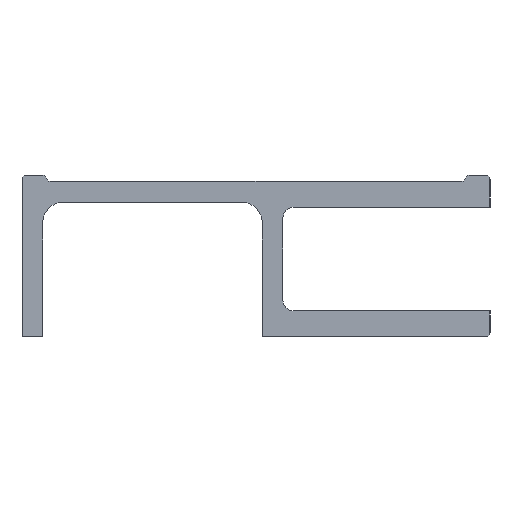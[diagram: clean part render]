
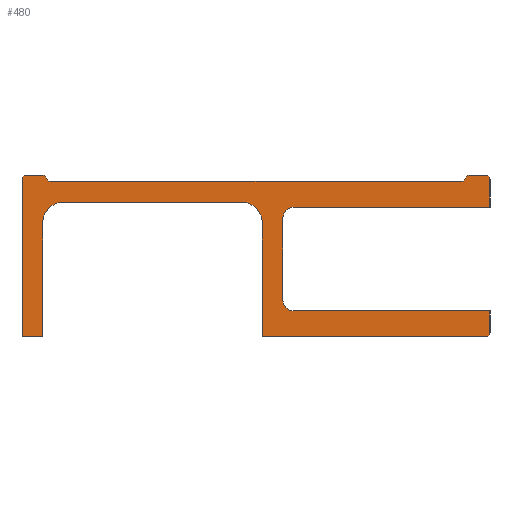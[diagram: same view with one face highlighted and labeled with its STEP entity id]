
A CAD part, left-side view. The second image highlights one B-rep face of the part: STEP entity #480.
In plain terms, the highlighted planar face has unit normal (-1, 0, 0).
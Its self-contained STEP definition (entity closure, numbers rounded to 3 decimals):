
#1=DIRECTION('',(0.,0.,-1.));
#2=VECTOR('',#1,4.);
#3=CARTESIAN_POINT('',(0.,-6.3,5.75));
#4=LINE('',#3,#2);
#5=DIRECTION('',(0.,-1.,0.));
#6=VECTOR('',#5,9.5);
#7=CARTESIAN_POINT('',(0.,-6.8,1.25));
#8=LINE('',#7,#6);
#9=DIRECTION('',(0.,0.,-1.));
#10=VECTOR('',#9,1.05);
#11=CARTESIAN_POINT('',(0.,-16.3,1.25));
#12=LINE('',#11,#10);
#13=CARTESIAN_POINT('',(0.,-16.1,0.2));
#14=DIRECTION('',(-1.,0.,0.));
#15=DIRECTION('',(0.,0.,-1.));
#16=AXIS2_PLACEMENT_3D('',#13,#14,#15);
#18=DIRECTION('',(0.,1.,0.));
#19=VECTOR('',#18,10.8);
#20=CARTESIAN_POINT('',(0.,-16.1,0.));
#21=LINE('',#20,#19);
#22=DIRECTION('',(0.,0.,1.));
#23=VECTOR('',#22,5.5);
#24=CARTESIAN_POINT('',(0.,-5.3,0.));
#25=LINE('',#24,#23);
#26=DIRECTION('',(0.,1.,0.));
#27=VECTOR('',#26,8.6);
#28=CARTESIAN_POINT('',(0.,-4.3,6.5));
#29=LINE('',#28,#27);
#30=DIRECTION('',(0.,0.,-1.));
#31=VECTOR('',#30,5.5);
#32=CARTESIAN_POINT('',(0.,5.3,5.5));
#33=LINE('',#32,#31);
#34=DIRECTION('',(0.,1.,0.));
#35=VECTOR('',#34,1.);
#36=CARTESIAN_POINT('',(0.,5.3,0.));
#37=LINE('',#36,#35);
#38=DIRECTION('',(0.,0.,1.));
#39=VECTOR('',#38,7.6);
#40=CARTESIAN_POINT('',(0.,6.3,0.));
#41=LINE('',#40,#39);
#42=CARTESIAN_POINT('',(0.,6.1,7.6));
#43=DIRECTION('',(-1.,0.,0.));
#44=DIRECTION('',(0.,0.,1.));
#45=AXIS2_PLACEMENT_3D('',#42,#43,#44);
#47=DIRECTION('',(0.,-1.,0.));
#48=VECTOR('',#47,0.8);
#49=CARTESIAN_POINT('',(0.,6.1,7.8));
#50=LINE('',#49,#48);
#51=CARTESIAN_POINT('',(0.,5.3,7.6));
#52=DIRECTION('',(-1.,0.,0.));
#53=DIRECTION('',(0.,-0.968,0.25));
#54=AXIS2_PLACEMENT_3D('',#51,#52,#53);
#56=DIRECTION('',(0.,-1.,0.));
#57=VECTOR('',#56,19.825);
#58=CARTESIAN_POINT('',(0.,4.913,7.5));
#59=LINE('',#58,#57);
#60=CARTESIAN_POINT('',(0.,-15.3,7.6));
#61=DIRECTION('',(-1.,0.,0.));
#62=DIRECTION('',(0.,0.,1.));
#63=AXIS2_PLACEMENT_3D('',#60,#61,#62);
#65=DIRECTION('',(0.,-1.,0.));
#66=VECTOR('',#65,0.8);
#67=CARTESIAN_POINT('',(0.,-15.3,7.8));
#68=LINE('',#67,#66);
#69=CARTESIAN_POINT('',(0.,-16.1,7.6));
#70=DIRECTION('',(-1.,0.,0.));
#71=DIRECTION('',(0.,-1.,0.));
#72=AXIS2_PLACEMENT_3D('',#69,#70,#71);
#74=DIRECTION('',(0.,0.,-1.));
#75=VECTOR('',#74,1.35);
#76=CARTESIAN_POINT('',(0.,-16.3,7.6));
#77=LINE('',#76,#75);
#78=DIRECTION('',(0.,1.,0.));
#79=VECTOR('',#78,9.5);
#80=CARTESIAN_POINT('',(0.,-16.3,6.25));
#81=LINE('',#80,#79);
#90=CARTESIAN_POINT('',(0.,-6.8,5.75));
#91=DIRECTION('',(1.,0.,0.));
#92=DIRECTION('',(0.,1.,0.));
#93=AXIS2_PLACEMENT_3D('',#90,#91,#92);
#124=CARTESIAN_POINT('',(0.,-14.913,7.7));
#125=DIRECTION('',(1.,0.,0.));
#126=DIRECTION('',(0.,-0.968,-0.25));
#127=AXIS2_PLACEMENT_3D('',#124,#125,#126);
#142=CARTESIAN_POINT('',(0.,4.913,7.7));
#143=DIRECTION('',(1.,0.,0.));
#144=DIRECTION('',(0.,0.,-1.));
#145=AXIS2_PLACEMENT_3D('',#142,#143,#144);
#180=CARTESIAN_POINT('',(0.,4.3,5.5));
#181=DIRECTION('',(1.,0.,0.));
#182=DIRECTION('',(0.,1.,0.));
#183=AXIS2_PLACEMENT_3D('',#180,#181,#182);
#198=CARTESIAN_POINT('',(0.,-4.3,5.5));
#199=DIRECTION('',(1.,0.,0.));
#200=DIRECTION('',(0.,0.,1.));
#201=AXIS2_PLACEMENT_3D('',#198,#199,#200);
#232=CARTESIAN_POINT('',(0.,-6.8,1.75));
#233=DIRECTION('',(1.,0.,0.));
#234=DIRECTION('',(0.,0.,-1.));
#235=AXIS2_PLACEMENT_3D('',#232,#233,#234);
#323=CARTESIAN_POINT('',(0.,5.3,0.));
#324=CARTESIAN_POINT('',(0.,6.3,0.));
#325=VERTEX_POINT('',#323);
#326=VERTEX_POINT('',#324);
#331=CARTESIAN_POINT('',(0.,-5.3,0.));
#333=VERTEX_POINT('',#331);
#335=CARTESIAN_POINT('',(0.,-4.3,6.5));
#337=VERTEX_POINT('',#335);
#339=CARTESIAN_POINT('',(0.,-5.3,5.5));
#341=VERTEX_POINT('',#339);
#343=CARTESIAN_POINT('',(0.,5.3,5.5));
#345=VERTEX_POINT('',#343);
#347=CARTESIAN_POINT('',(0.,4.3,6.5));
#349=VERTEX_POINT('',#347);
#351=CARTESIAN_POINT('',(0.,-16.3,1.25));
#353=VERTEX_POINT('',#351);
#355=CARTESIAN_POINT('',(0.,-16.1,0.));
#356=CARTESIAN_POINT('',(0.,-16.3,0.2));
#357=VERTEX_POINT('',#355);
#358=VERTEX_POINT('',#356);
#364=CARTESIAN_POINT('',(0.,5.3,7.8));
#366=VERTEX_POINT('',#364);
#367=CARTESIAN_POINT('',(0.,6.1,7.8));
#368=CARTESIAN_POINT('',(0.,6.3,7.6));
#369=VERTEX_POINT('',#367);
#370=VERTEX_POINT('',#368);
#375=CARTESIAN_POINT('',(0.,-15.3,7.8));
#376=CARTESIAN_POINT('',(0.,-16.1,7.8));
#377=VERTEX_POINT('',#375);
#378=VERTEX_POINT('',#376);
#383=CARTESIAN_POINT('',(0.,5.106,7.65));
#384=VERTEX_POINT('',#383);
#387=CARTESIAN_POINT('',(0.,-16.3,6.25));
#389=VERTEX_POINT('',#387);
#391=CARTESIAN_POINT('',(0.,4.913,7.5));
#393=VERTEX_POINT('',#391);
#395=CARTESIAN_POINT('',(0.,-15.106,7.65));
#396=VERTEX_POINT('',#395);
#399=CARTESIAN_POINT('',(0.,-6.3,5.75));
#401=VERTEX_POINT('',#399);
#403=CARTESIAN_POINT('',(0.,-6.8,6.25));
#405=VERTEX_POINT('',#403);
#407=CARTESIAN_POINT('',(0.,-6.8,1.25));
#409=VERTEX_POINT('',#407);
#411=CARTESIAN_POINT('',(0.,-6.3,1.75));
#413=VERTEX_POINT('',#411);
#415=CARTESIAN_POINT('',(0.,-16.3,7.6));
#416=VERTEX_POINT('',#415);
#419=CARTESIAN_POINT('',(0.,-14.913,7.5));
#421=VERTEX_POINT('',#419);
#423=CARTESIAN_POINT('',(0.,0.,0.));
#424=DIRECTION('',(1.,0.,0.));
#425=DIRECTION('',(0.,0.,-1.));
#426=AXIS2_PLACEMENT_3D('',#423,#424,#425);
#427=PLANE('',#426);
#429=ORIENTED_EDGE('',*,*,#428,.T.);
#431=ORIENTED_EDGE('',*,*,#430,.F.);
#433=ORIENTED_EDGE('',*,*,#432,.T.);
#435=ORIENTED_EDGE('',*,*,#434,.T.);
#437=ORIENTED_EDGE('',*,*,#436,.F.);
#439=ORIENTED_EDGE('',*,*,#438,.T.);
#441=ORIENTED_EDGE('',*,*,#440,.T.);
#443=ORIENTED_EDGE('',*,*,#442,.F.);
#445=ORIENTED_EDGE('',*,*,#444,.T.);
#447=ORIENTED_EDGE('',*,*,#446,.F.);
#449=ORIENTED_EDGE('',*,*,#448,.T.);
#451=ORIENTED_EDGE('',*,*,#450,.T.);
#453=ORIENTED_EDGE('',*,*,#452,.T.);
#455=ORIENTED_EDGE('',*,*,#454,.F.);
#457=ORIENTED_EDGE('',*,*,#456,.T.);
#459=ORIENTED_EDGE('',*,*,#458,.F.);
#461=ORIENTED_EDGE('',*,*,#460,.F.);
#463=ORIENTED_EDGE('',*,*,#462,.T.);
#465=ORIENTED_EDGE('',*,*,#464,.F.);
#467=ORIENTED_EDGE('',*,*,#466,.F.);
#469=ORIENTED_EDGE('',*,*,#468,.T.);
#471=ORIENTED_EDGE('',*,*,#470,.F.);
#473=ORIENTED_EDGE('',*,*,#472,.T.);
#475=ORIENTED_EDGE('',*,*,#474,.T.);
#477=ORIENTED_EDGE('',*,*,#476,.F.);
#478=EDGE_LOOP('',(#429,#431,#433,#435,#437,#439,#441,#443,#445,#447,#449,#451,
#453,#455,#457,#459,#461,#463,#465,#467,#469,#471,#473,#475,#477));
#479=FACE_OUTER_BOUND('',#478,.F.);
#480=ADVANCED_FACE('',(#479),#427,.F.);
#17=CIRCLE('',#16,0.2);
#46=CIRCLE('',#45,0.2);
#55=CIRCLE('',#54,0.2);
#64=CIRCLE('',#63,0.2);
#73=CIRCLE('',#72,0.2);
#94=CIRCLE('',#93,0.5);
#128=CIRCLE('',#127,0.2);
#146=CIRCLE('',#145,0.2);
#184=CIRCLE('',#183,1.);
#202=CIRCLE('',#201,1.);
#236=CIRCLE('',#235,0.5);
#428=EDGE_CURVE('',#401,#413,#4,.T.);
#430=EDGE_CURVE('',#409,#413,#236,.T.);
#432=EDGE_CURVE('',#409,#353,#8,.T.);
#434=EDGE_CURVE('',#353,#358,#12,.T.);
#436=EDGE_CURVE('',#357,#358,#17,.T.);
#438=EDGE_CURVE('',#357,#333,#21,.T.);
#440=EDGE_CURVE('',#333,#341,#25,.T.);
#442=EDGE_CURVE('',#337,#341,#202,.T.);
#444=EDGE_CURVE('',#337,#349,#29,.T.);
#446=EDGE_CURVE('',#345,#349,#184,.T.);
#448=EDGE_CURVE('',#345,#325,#33,.T.);
#450=EDGE_CURVE('',#325,#326,#37,.T.);
#452=EDGE_CURVE('',#326,#370,#41,.T.);
#454=EDGE_CURVE('',#369,#370,#46,.T.);
#456=EDGE_CURVE('',#369,#366,#50,.T.);
#458=EDGE_CURVE('',#384,#366,#55,.T.);
#460=EDGE_CURVE('',#393,#384,#146,.T.);
#462=EDGE_CURVE('',#393,#421,#59,.T.);
#464=EDGE_CURVE('',#396,#421,#128,.T.);
#466=EDGE_CURVE('',#377,#396,#64,.T.);
#468=EDGE_CURVE('',#377,#378,#68,.T.);
#470=EDGE_CURVE('',#416,#378,#73,.T.);
#472=EDGE_CURVE('',#416,#389,#77,.T.);
#474=EDGE_CURVE('',#389,#405,#81,.T.);
#476=EDGE_CURVE('',#401,#405,#94,.T.);
